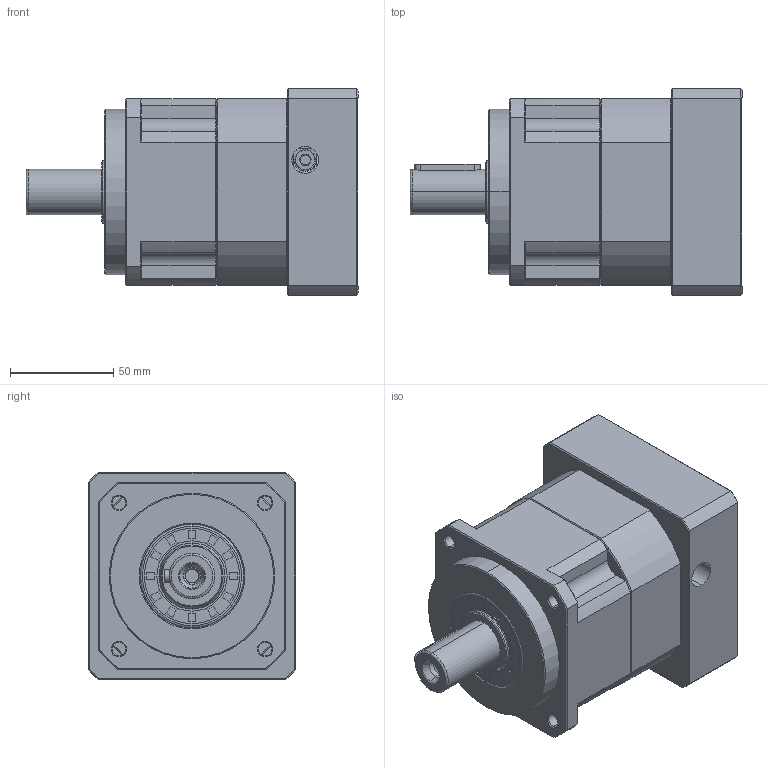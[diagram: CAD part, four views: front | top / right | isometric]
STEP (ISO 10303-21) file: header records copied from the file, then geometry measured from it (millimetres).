
FILE_DESCRIPTION (( 'STEP AP214' ), '1' );
FILE_NAME ('ZPB090-D22-L1-P1-19-95-115-M6.step', '2024-06-07T18:19:12', ( 'Windows 蚚誧' ), ( 'Organization' ), 'SwSTEP 2.0', 'SolidWorks 2016', '' );
FILE_SCHEMA (( 'AUTOMOTIVE_DESIGN' ));
Length unit declared in the file: millimetre
Products named in the file (1): ZPB090-D22-L1-P1-19-95-115-M6
Bounding box: 160.5 x 100 x 100 mm (x, y, z)
Surface area: 87766.7 mm2 (no closed solid volume)
Topology: 0 solids, 35 shells, 1817 faces, 4865 edges, 3112 vertices
Faces by surface type: plane 933, bspline 388, cone 276, cylinder 218, torus 2
Full cylindrical faces by diameter (mm): 6.72 x1
Entity records: 94865 total; most frequent: CARTESIAN_POINT 47688, ORIENTED_EDGE 9681, DIRECTION 7455, EDGE_CURVE 4860, VECTOR 3199, LINE 3199, VERTEX_POINT 3110, AXIS2_PLACEMENT_3D 2128
